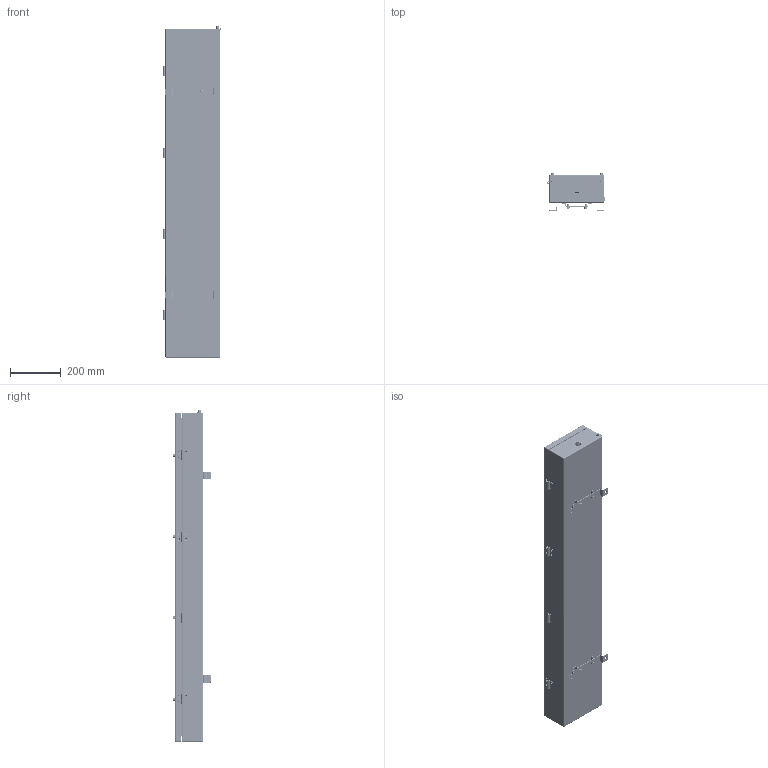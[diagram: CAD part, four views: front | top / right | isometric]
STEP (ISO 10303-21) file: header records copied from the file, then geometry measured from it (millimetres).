
FILE_DESCRIPTION((''),'2;1');
FILE_NAME('C:\Users\L.A.Ronzhin\Desktop\Новая папка (3)\ТЗ 40076\Светильники ГОРЭЛТЕХ\СГЛ01\СГЛ01-4960С-220AC_Н_П.stp','2019-04-10T16:26:40',('L.A.Ronzhin'),(''),'Autodesk Inventor 2012','Autodesk Inventor 2012','');
FILE_SCHEMA(('CONFIG_CONTROL_DESIGN'));
Length unit declared in the file: millimetre
Products named in the file (1): СГЛ01-4960С-220AC_Н_П_Внешний контур_1
Bounding box: 227.19 x 147.2 x 1306.2 mm (x, y, z)
Surface area: 3396913.5 mm2 (no closed solid volume)
Topology: 0 solids, 300 shells, 11625 faces, 29217 edges, 19157 vertices
Faces by surface type: plane 6861, bspline 2644, cylinder 1432, cone 580, torus 69, sphere 39
Full cylindrical faces by diameter (mm): 0.6 x8, 0.8 x70, 1.4 x16, 2.459 x24, 2.5 x2, 3 x22, 3.242 x29, 3.3 x5, 3.65 x11, 3.8 x5, 3.85 x14, 4 x27, 4.3 x8, 4.5 x6, 4.917 x43, 5 x48, 5.026 x2, 5.3 x2, 5.459 x5, 5.9 x32, 6 x78, 6.1 x16, 6.4 x35, 6.5 x13, 7 x44, 7.2 x2, 7.5 x48, 7.53 x16, 8 x10, 8.5 x2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
Entity records: 363831 total; most frequent: CARTESIAN_POINT 96249, ORIENTED_EDGE 55308, DIRECTION 43645, EDGE_CURVE 27654, VERTEX_POINT 18856, VECTOR 17781, LINE 17781, EDGE_LOOP 14394
